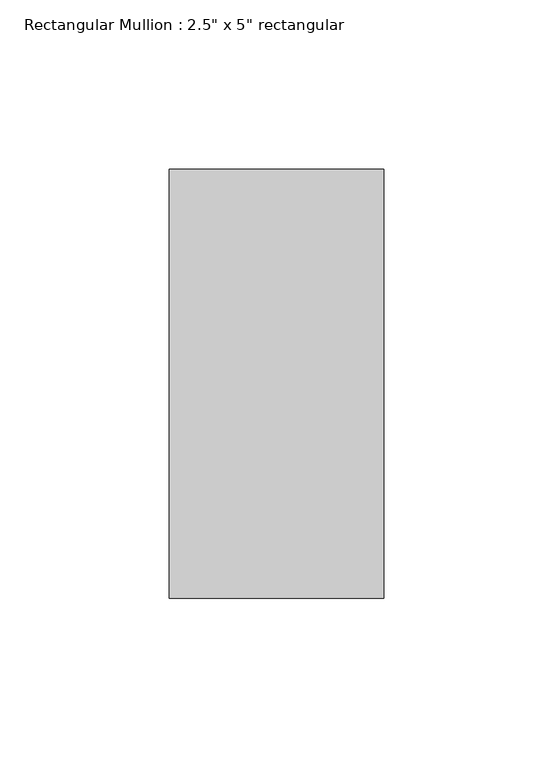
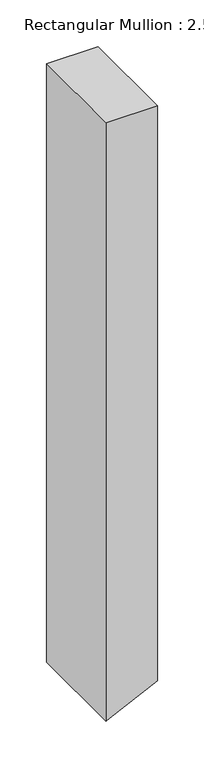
"""IFC4 building model written with IfcOpenShell, lengths in millimetres: member geometry."""

from ifc_helpers import new_model, si_unit, frame, origin, place, context, project, spatial, circle_curve, source, transform, mapped, element, save
from ifc_brep_helpers import plane_surface, cylinder_surface, advanced_brep


def member_4c7c3d13(model_context):
    return source(origin(), model_context, "Body", "AdvancedBrep", [
        advanced_brep(
        [(31.75, 63.5, 0.0), (-31.75, 63.5, 0.0), (-31.75, -63.5, 0.0), (31.75, -63.5, 0.0), (31.75, 63.5, -750.9083357), (-27.2141874, 63.5, -779.4869154), (-31.75, 63.5, -781.634866), (-31.75, -63.5, -781.634866), (-27.2141874, -63.5, -779.4869154), (31.75, -63.5, -750.9083357)],
        [
            (0, 1),
            (1, 2),
            (2, 3),
            (3, 0),
            (0, 4),
            (4, 5, circle_curve(frame((-1698.1714284, 63.5, 2743.2), z_axis=(0.0, 1.0, 0.0), x_axis=(0.7142857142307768, 0.0, -0.6998542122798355)), 3898.9)),
            (5, 6, circle_curve(frame((-1698.1714284, 63.5, 2743.2), z_axis=(0.0, 1.0, 0.0), x_axis=(0.428571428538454, 0.0, -0.9035079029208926)), 3898.9)),
            (6, 1),
            (6, 7),
            (7, 2),
            (7, 8, circle_curve(frame((-1698.1714284, -63.5, 2743.2), z_axis=(0.0, -1.0, 0.0), x_axis=(0.428571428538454, 0.0, -0.9035079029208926)), 3898.9)),
            (8, 9, circle_curve(frame((-1698.1714284, -63.5, 2743.2), z_axis=(0.0, -1.0, 0.0), x_axis=(0.7142857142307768, 0.0, -0.6998542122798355)), 3898.9)),
            (9, 3),
            (9, 4),
            (8, 5),
        ],
        [
            plane_surface(frame((0.0, -70.9951583, 0.0), z_axis=(0.0, 0.0, 1.0), x_axis=(-1.0, 0.0, 0.0))),
            plane_surface(frame((31.75, 63.5, 0.0), z_axis=(0.0, 1.0, 0.0), x_axis=(0.0, 0.0, -1.0))),
            plane_surface(frame((-31.75, 63.5, 0.0), z_axis=(-1.0, 0.0, 0.0), x_axis=(0.0, 0.0, -1.0))),
            plane_surface(frame((-31.75, -63.5, 0.0), z_axis=(0.0, -1.0, 0.0), x_axis=(0.0, 0.0, -1.0))),
            plane_surface(frame((31.75, -63.5, 0.0), z_axis=(1.0, 0.0, 0.0), x_axis=(0.0, 0.0, -1.0))),
            cylinder_surface(frame((-1698.1714284, 0.0, 2743.2), z_axis=(0.0, 1.0, 0.0), x_axis=(0.7142857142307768, 0.0, -0.6998542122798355)), 3898.9),
            cylinder_surface(frame((-1698.1714284, 0.0, 2743.2), z_axis=(0.0, 1.0000000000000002, 0.0), x_axis=(0.428571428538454, 0.0, -0.9035079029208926)), 3898.9),
        ],
        [
            (0, [[1, 2, 3, 4]]),
            (1, [[-1, 5, 6, 7, 8]]),
            (2, [[-2, -8, 9, 10]]),
            (3, [[-3, -10, 11, 12, 13]]),
            (4, [[-4, -13, 14, -5]]),
            (5, [[-14, -12, 15, -6]]),
            (6, [[-11, -9, -7, -15]]),
        ],
    ),
    ])


if __name__ == "__main__":
    model = new_model("IFC4")
    model_context = context("Model", 3, world=origin())
    ifc_project = project(units=[si_unit("LENGTHUNIT", "METRE", prefix="MILLI")], contexts=[model_context])
    site = spatial("IfcSite", under=ifc_project)
    building = spatial("IfcBuilding", under=site)
    placement = place(None, origin())
    member_shape = member_4c7c3d13(model_context)
    element("IfcMember", 1, ObjectType="Rectangular Mullion : 2.5\" x 5\" rectangular", at=placement, inside=building, context=model_context, shape_type="MappedRepresentation", body=[
        mapped(member_shape, transform((0.0, 0.0, 0.0), x_axis=(1.0, 0.0, 0.0), y_axis=(0.0, 1.0, 0.0), z_axis=(0.0, 0.0, 1.0))),
    ])
    save(model, "model.ifc")
